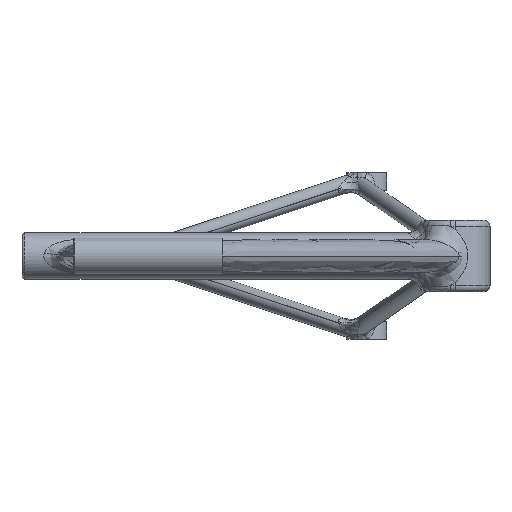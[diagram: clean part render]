
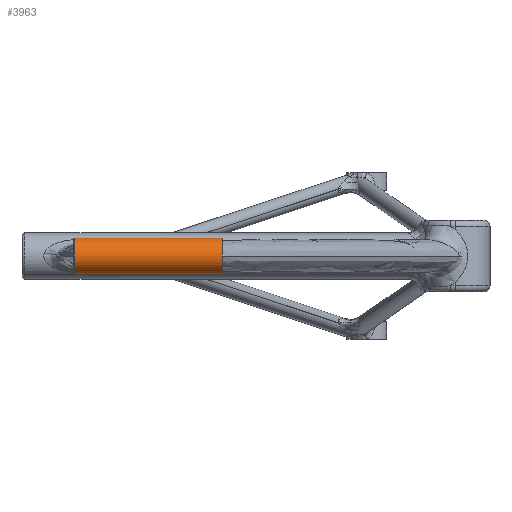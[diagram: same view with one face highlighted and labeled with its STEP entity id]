
A CAD part, left-side view. The second image highlights one B-rep face of the part: STEP entity #3963.
In plain terms, the highlighted cylindrical face has radius 30 mm (diameter 60 mm), a partial arc.
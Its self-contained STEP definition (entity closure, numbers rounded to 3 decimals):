
#268 = EDGE_CURVE ( 'NONE', #2735, #10191, #14365, .T. ) ;
#288 = CIRCLE ( 'NONE', #5091, 30. ) ;
#402 = ORIENTED_EDGE ( 'NONE', *, *, #268, .T. ) ;
#1333 = EDGE_CURVE ( 'NONE', #9549, #15868, #288, .T. ) ;
#2415 = CARTESIAN_POINT ( 'NONE',  ( 0., 249.5, -30. ) ) ;
#2713 = VECTOR ( 'NONE', #10946, 1000. ) ;
#2735 = VERTEX_POINT ( 'NONE', #7154 ) ;
#3693 = CARTESIAN_POINT ( 'NONE',  ( 0., 0.5, 30. ) ) ;
#3935 = AXIS2_PLACEMENT_3D ( 'NONE', #12790, #15669, #10159 ) ;
#3963 = ADVANCED_FACE ( 'NONE', ( #7530 ), #9223, .T. ) ;
#4274 = DIRECTION ( 'NONE',  ( 0., 1., 0. ) ) ;
#5091 = AXIS2_PLACEMENT_3D ( 'NONE', #7025, #4274, #9919 ) ;
#5716 = CARTESIAN_POINT ( 'NONE',  ( 0., 250., -30. ) ) ;
#6830 = EDGE_CURVE ( 'NONE', #10191, #9549, #9094, .T. ) ;
#7025 = CARTESIAN_POINT ( 'NONE',  ( 0., 0.5, 0. ) ) ;
#7154 = CARTESIAN_POINT ( 'NONE',  ( 0., 249.5, 30. ) ) ;
#7530 = FACE_OUTER_BOUND ( 'NONE', #14632, .T. ) ;
#8072 = EDGE_CURVE ( 'NONE', #2735, #15868, #16779, .T. ) ;
#8123 = DIRECTION ( 'NONE',  ( 0., -1., 0. ) ) ;
#9094 = LINE ( 'NONE', #5716, #2713 ) ;
#9223 = CYLINDRICAL_SURFACE ( 'NONE', #9780, 30. ) ;
#9549 = VERTEX_POINT ( 'NONE', #16811 ) ;
#9780 = AXIS2_PLACEMENT_3D ( 'NONE', #10570, #12007, #10923 ) ;
#9919 = DIRECTION ( 'NONE',  ( 0., 0., 1. ) ) ;
#10159 = DIRECTION ( 'NONE',  ( 0., 0., 1. ) ) ;
#10191 = VERTEX_POINT ( 'NONE', #2415 ) ;
#10570 = CARTESIAN_POINT ( 'NONE',  ( 0., 250., 0. ) ) ;
#10923 = DIRECTION ( 'NONE',  ( 0., 0., -1. ) ) ;
#10946 = DIRECTION ( 'NONE',  ( 0., -1., 0. ) ) ;
#11934 = ORIENTED_EDGE ( 'NONE', *, *, #8072, .F. ) ;
#12007 = DIRECTION ( 'NONE',  ( 0., -1., 0. ) ) ;
#12790 = CARTESIAN_POINT ( 'NONE',  ( 0., 249.5, 0. ) ) ;
#13235 = ORIENTED_EDGE ( 'NONE', *, *, #6830, .T. ) ;
#13442 = CARTESIAN_POINT ( 'NONE',  ( 0., 250., 30. ) ) ;
#13752 = ORIENTED_EDGE ( 'NONE', *, *, #1333, .T. ) ;
#14365 = CIRCLE ( 'NONE', #3935, 30. ) ;
#14632 = EDGE_LOOP ( 'NONE', ( #11934, #402, #13235, #13752 ) ) ;
#15669 = DIRECTION ( 'NONE',  ( 0., -1., 0. ) ) ;
#15868 = VERTEX_POINT ( 'NONE', #3693 ) ;
#16779 = LINE ( 'NONE', #13442, #17645 ) ;
#16811 = CARTESIAN_POINT ( 'NONE',  ( 0., 0.5, -30. ) ) ;
#17645 = VECTOR ( 'NONE', #8123, 1000. ) ;
